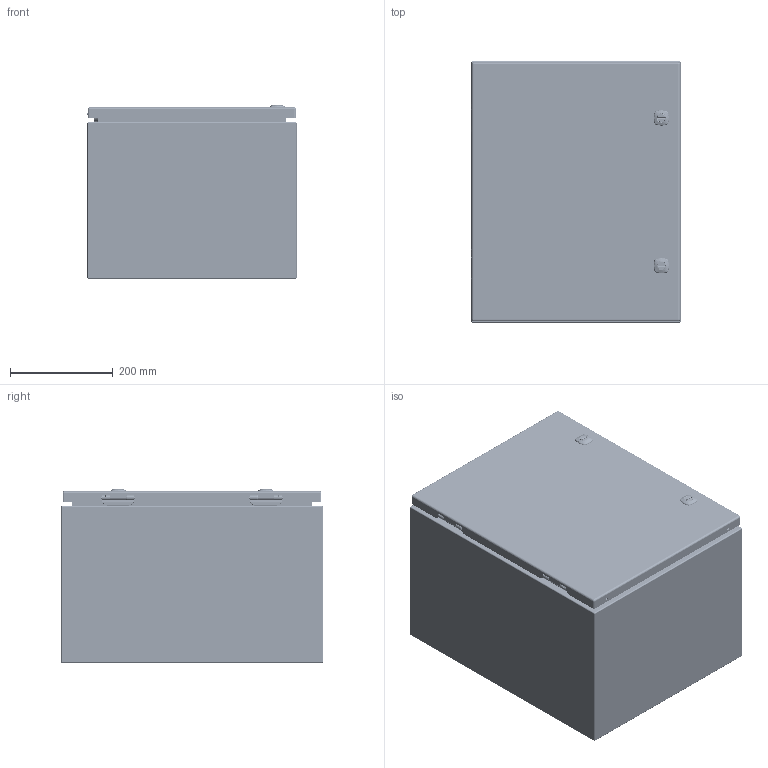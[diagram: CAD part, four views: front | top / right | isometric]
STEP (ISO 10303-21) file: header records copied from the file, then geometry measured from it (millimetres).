
FILE_DESCRIPTION(/* description */ ('5412ES 20" x 16" x 12" Assembly'),/* implementation_level */ '2;1');
FILE_NAME(/* name */ '5412ESB201612.stp',/* time_stamp */ '2024-01-18T09:31:55-05:00',/* author */ ('BoxCad'),/* organization */ (''),/* preprocessor_version */ 'ST-DEVELOPER v20',/* originating_system */ 'Autodesk Inventor 2024',/* authorisation */ '');
FILE_SCHEMA (('AUTOMOTIVE_DESIGN { 1 0 10303 214 3 1 1 }'));
Products named in the file (43): 5412ESB201612; 5412ESB201612B; 5412ESB201612B-P; STK-Q-16005; STUD_M6 x 16mm; 5412ESB201612C; 5412ESB201612C-P; 5412ESB201612G; STK-K-09800; STK-K-09800-2; STK-Q-33014; STK-Q-90398; STK-Q-40095; STK-Q-63410; STK-Q-16055; STK-Q-46020-20; STK-Q-07220-1; STK-Q-07220-2; STK-Q-07220-3; STK-Q-07220-4; STK-Q-07220-A; STK-Q-07220-B; STK-P-03820R; STK-S-00100; STK-K-12500; STK-Q-78111; STK-Q-78141; STK-Q-78120; STK-Q-78145; STK-Q-03200; STK-Q-78160; STK-Q-90390; STK-Q-78111-R; STK-Q-04050-08-1; STK-Q-04050-08-2; STK-Q-04050-08-P; STK-Q-04051-N; STK-A-01800; 5412ESB201612IPK; STK-Q-07610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
Assembly tree (73 placements, depth 4):
  5412ESB201612
    5412ESB201612B
      5412ESB201612B-P
      STK-Q-16005  x4
      STK-P-03820R
      STUD_M6 x 16mm
    5412ESB201612C
      5412ESB201612C-P
      5412ESB201612G
      STK-K-09800
        STK-Q-33014
        STK-Q-90398
        STK-Q-40095  x2
        STK-Q-63410  x2
      STK-K-09800-2
        STK-Q-33014
        STK-Q-90398
        STK-Q-40095  x2
        STK-Q-63410  x2
      STK-Q-16055  x4
      STK-Q-46020-20  x2
      STK-Q-07220-1
        STK-Q-07220-A
        STK-Q-07220-B
      STK-Q-07220-2
        STK-Q-07220-A
        STK-Q-07220-B
      STK-Q-07220-3
        STK-Q-07220-A
        STK-Q-07220-B
      STK-Q-07220-4
        STK-Q-07220-A
        STK-Q-07220-B
      STK-P-03820R
      STK-S-00100
      STK-K-12500  x2
        STK-Q-78111
        STK-Q-78141
        STK-Q-78120
        STK-Q-78145
        STK-Q-03200
        STK-Q-78160
        STK-Q-90390
        STK-Q-78111-R
    STK-Q-04050-08-1
      STK-Q-04050-08-P
      STK-Q-04051-N
    STK-Q-04050-08-2
      STK-Q-04050-08-P
      STK-Q-04051-N
    STK-A-01800
    5412ESB201612IPK
      STK-Q-07610  x4
      STK-Q-07310  x4
    881SP2016G
      881SP2016G-P
Bounding box: 406.47 x 508 x 338.07 mm (x, y, z)
Volume: 2044742.8 mm3; surface area: 2658587.2 mm2
Topology: 64 solids, 64 shells, 9692 faces, 25609 edges, 16056 vertices
Faces by surface type: bspline 3330, plane 2775, cylinder 2552, torus 679, sphere 220, cone 136
Full cylindrical faces by diameter (mm): 0 x1, 0.75 x9, 0.762 x9, 1 x8, 1.1 x8, 3.2 x4, 4.191 x32, 4.5 x4, 4.521 x8, 4.75 x2, 4.85 x16, 4.95 x4, 5 x4, 5.1 x30, 5.156 x4, 5.6 x2, 5.9 x25, 6.015 x32, 6.65 x4, 6.8 x4, 6.85 x8, 7.3 x2, 7.366 x4, 7.9 x8, 8 x12, 8.382 x2, 9.5 x4, 9.6 x2, 9.906 x4, 10 x2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
Entity records: 150114 total; most frequent: CARTESIAN_POINT 60496, ORIENTED_EDGE 20298, DIRECTION 15202, EDGE_CURVE 10149, VERTEX_POINT 6344, AXIS2_PLACEMENT_3D 5618, EDGE_LOOP 4211, FACE_OUTER_BOUND 3975
